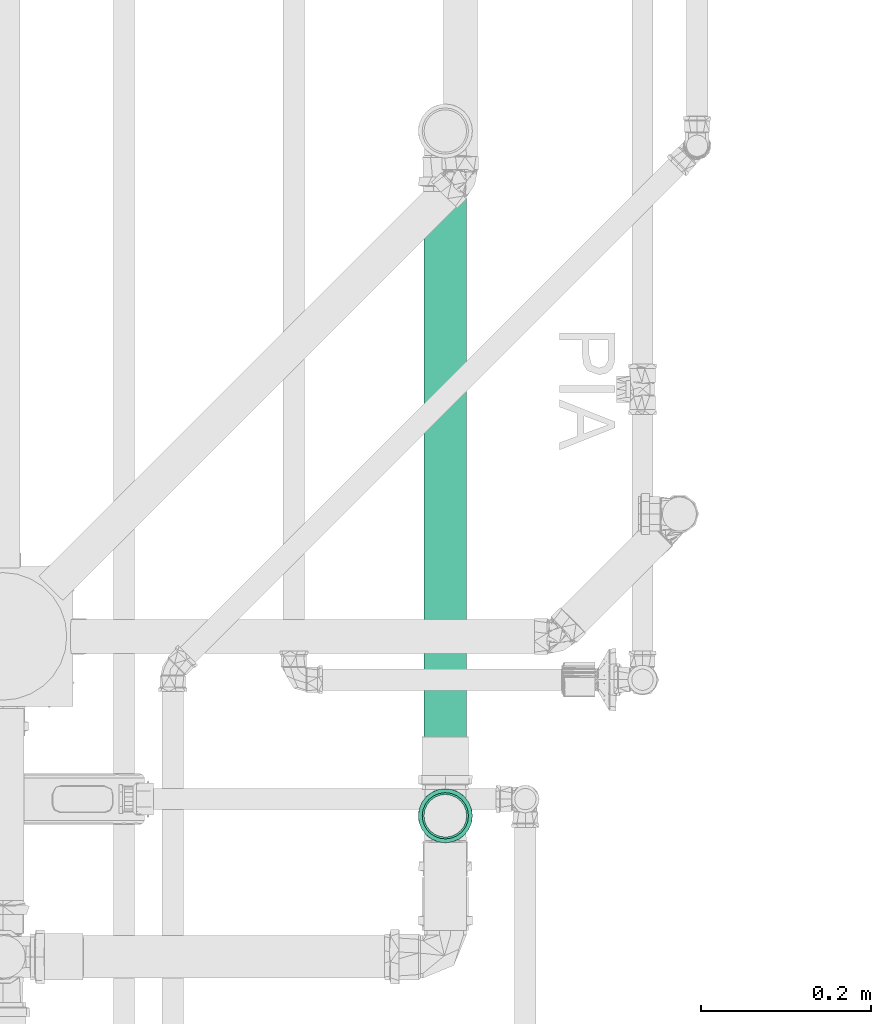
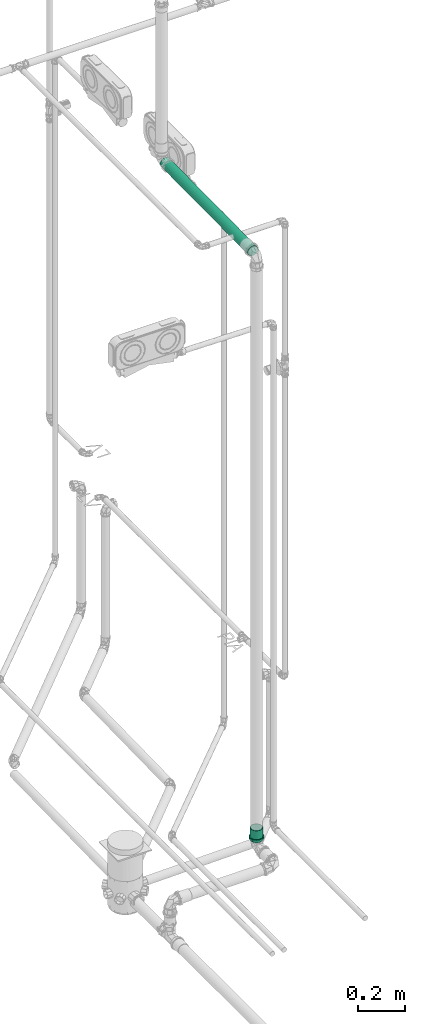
# One storey, part 51 of 589: 1 flow fitting, 1 flow segment.
"""IFC2X3 building model written with IfcOpenShell, lengths in millimetres."""

from ifc_helpers import new_model, entity, si_unit, converted_unit, derived_unit, direction, frame, frame_2d, origin, place, context, subcontext, project, spatial, circle, extrude, faceted_brep, source, transform, mapped, material, type_object, type_shapes, element, save


model = new_model("IFC2X3")

# Units and contexts
model_context = context("Model", 3, precision=0.01, world=origin(), true_north=direction((6.123031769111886e-17, 1.0)))
body_context = subcontext(model_context, "Body", "Model", "MODEL_VIEW")
ifc_project = project(units=[si_unit("LENGTHUNIT", "METRE", prefix="MILLI"), si_unit("AREAUNIT", "SQUARE_METRE"), si_unit("VOLUMEUNIT", "CUBIC_METRE"), converted_unit("PLANEANGLEUNIT", "DEGREE", entity("IfcRatioMeasure", 0.017453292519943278), si_unit("PLANEANGLEUNIT", "RADIAN"), dimensions=[0, 0, 0, 0, 0, 0, 0]), si_unit("MASSUNIT", "GRAM", prefix="KILO"), derived_unit("MASSDENSITYUNIT", [(si_unit("MASSUNIT", "GRAM", prefix="KILO"), 1), (si_unit("LENGTHUNIT", "METRE"), -3)]), derived_unit("IONCONCENTRATIONUNIT", [(si_unit("MASSUNIT", "GRAM", prefix="KILO"), 1), (si_unit("LENGTHUNIT", "METRE"), -3)]), derived_unit("MOMENTOFINERTIAUNIT", [(si_unit("LENGTHUNIT", "METRE"), 4)]), si_unit("TIMEUNIT", "SECOND"), si_unit("FREQUENCYUNIT", "HERTZ"), si_unit("THERMODYNAMICTEMPERATUREUNIT", "DEGREE_CELSIUS"), derived_unit("THERMALTRANSMITTANCEUNIT", [(si_unit("MASSUNIT", "GRAM", prefix="KILO"), 1), (si_unit("THERMODYNAMICTEMPERATUREUNIT", "KELVIN"), -1), (si_unit("TIMEUNIT", "SECOND"), -3)]), derived_unit("THERMALCONDUCTANCEUNIT", [(si_unit("MASSUNIT", "GRAM", prefix="KILO"), 1), (si_unit("THERMODYNAMICTEMPERATUREUNIT", "KELVIN"), -1), (si_unit("TIMEUNIT", "SECOND"), -3), (si_unit("LENGTHUNIT", "METRE"), 1)]), derived_unit("VOLUMETRICFLOWRATEUNIT", [(si_unit("LENGTHUNIT", "METRE"), 3), (si_unit("TIMEUNIT", "SECOND"), -1)]), derived_unit("MASSFLOWRATEUNIT", [(si_unit("MASSUNIT", "GRAM", prefix="KILO"), 1), (si_unit("TIMEUNIT", "SECOND"), -1)]), derived_unit("ROTATIONALFREQUENCYUNIT", [(si_unit("TIMEUNIT", "SECOND"), -1)]), si_unit("ELECTRICCURRENTUNIT", "AMPERE"), si_unit("ELECTRICVOLTAGEUNIT", "VOLT"), si_unit("POWERUNIT", "WATT"), si_unit("FORCEUNIT", "NEWTON", prefix="KILO"), si_unit("ILLUMINANCEUNIT", "LUX"), si_unit("LUMINOUSFLUXUNIT", "LUMEN"), si_unit("LUMINOUSINTENSITYUNIT", "CANDELA"), derived_unit("USERDEFINED", [(si_unit("MASSUNIT", "GRAM", prefix="KILO"), -1), (si_unit("LENGTHUNIT", "METRE"), -2), (si_unit("TIMEUNIT", "SECOND"), 3), (si_unit("LUMINOUSFLUXUNIT", "LUMEN"), 1)]), derived_unit("USERDEFINED", [(si_unit("MASSUNIT", "GRAM", prefix="KILO"), 1), (si_unit("TIMEUNIT", "SECOND"), -3), (si_unit("LENGTHUNIT", "METRE"), 3), (si_unit("ELECTRICCURRENTUNIT", "AMPERE"), -2)]), derived_unit("SOUNDPOWERUNIT", [(si_unit("MASSUNIT", "GRAM", prefix="KILO"), 1), (si_unit("TIMEUNIT", "SECOND"), -3), (si_unit("LENGTHUNIT", "METRE"), 2)]), derived_unit("SOUNDPRESSUREUNIT", [(si_unit("MASSUNIT", "GRAM", prefix="KILO"), 1), (si_unit("LENGTHUNIT", "METRE"), -1), (si_unit("TIMEUNIT", "SECOND"), -2)]), derived_unit("LINEARVELOCITYUNIT", [(si_unit("LENGTHUNIT", "METRE"), 1), (si_unit("TIMEUNIT", "SECOND"), -1)]), si_unit("PRESSUREUNIT", "PASCAL"), derived_unit("USERDEFINED", [(si_unit("MASSUNIT", "GRAM", prefix="KILO"), 1), (si_unit("LENGTHUNIT", "METRE"), -2), (si_unit("TIMEUNIT", "SECOND"), -2)]), derived_unit("LINEARFORCEUNIT", [(si_unit("MASSUNIT", "GRAM", prefix="KILO"), 1), (si_unit("TIMEUNIT", "SECOND"), -2)]), derived_unit("PLANARFORCEUNIT", [(si_unit("MASSUNIT", "GRAM", prefix="KILO"), 1), (si_unit("LENGTHUNIT", "METRE"), -1), (si_unit("TIMEUNIT", "SECOND"), -2)]), derived_unit("SPECIFICHEATCAPACITYUNIT", [(si_unit("THERMODYNAMICTEMPERATUREUNIT", "KELVIN"), -1), (si_unit("LENGTHUNIT", "METRE"), 2), (si_unit("TIMEUNIT", "SECOND"), -2)]), derived_unit("HEATINGVALUEUNIT", [(si_unit("LENGTHUNIT", "METRE"), 2), (si_unit("TIMEUNIT", "SECOND"), -2)]), derived_unit("VAPORPERMEABILITYUNIT", [(si_unit("LENGTHUNIT", "METRE"), -1), (si_unit("TIMEUNIT", "SECOND"), 1)]), derived_unit("DYNAMICVISCOSITYUNIT", [(si_unit("MASSUNIT", "GRAM", prefix="KILO"), 1), (si_unit("TIMEUNIT", "SECOND"), -1), (si_unit("LENGTHUNIT", "METRE"), -1)]), derived_unit("THERMALEXPANSIONCOEFFICIENTUNIT", [(si_unit("THERMODYNAMICTEMPERATUREUNIT", "KELVIN"), -1)]), derived_unit("MODULUSOFELASTICITYUNIT", [(si_unit("MASSUNIT", "GRAM", prefix="KILO"), 1), (si_unit("LENGTHUNIT", "METRE"), -1), (si_unit("TIMEUNIT", "SECOND"), -2)]), derived_unit("ISOTHERMALMOISTURECAPACITYUNIT", [(si_unit("LENGTHUNIT", "METRE"), 3), (si_unit("MASSUNIT", "GRAM", prefix="KILO"), -1)]), derived_unit("MOISTUREDIFFUSIVITYUNIT", [(si_unit("TIMEUNIT", "SECOND"), -1), (si_unit("LENGTHUNIT", "METRE"), 2)])], contexts=[model_context])

# Site, building, storey
site_placement = place(None, origin())
site = spatial("IfcSite", under=ifc_project, at=site_placement, Name="Default", CompositionType="ELEMENT")
building_placement = place(site_placement, origin())
building = spatial("IfcBuilding", under=site, at=building_placement, CompositionType="ELEMENT")
storey_placement = place(building_placement, frame((0.0, 0.0, 100.0)))
storey = spatial("IfcBuildingStorey", under=building, at=storey_placement, Name="TÉRREO", CompositionType="ELEMENT", Elevation=100.0)

# Flow segment
pipe_segment_type = type_object("IfcPipeSegmentType", Name="Tipos de tubos:PVC Esgoto Série Normal", PredefinedType="NOTDEFINED")
flow_segment_placement = place(storey_placement, origin())
element("IfcFlowSegment", 1, at=flow_segment_placement, inside=storey, type_object=pipe_segment_type, Name="Tipos de tubos:PVC Esgoto Série Normal", ObjectType="Tipos de tubos:PVC Esgoto Série Normal", context=body_context, shape_type="SweptSolid", body=[
    extrude(circle(Radius=25.0, at=frame_2d((6.767919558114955e-14, 0.0), x_axis=(1.0, 0.0))), frame((109.67377091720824, -7876.576600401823, 2968.3093975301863), z_axis=(0.0, 0.9999500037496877, 0.009999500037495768), x_axis=(1.0, 0.0, 0.0)), (0.0, 0.0, 1.0), 743.1220254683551),
])

# Flow fitting
ifc_material = material(Name="PVC Série Normal")
pipe_fitting_type = type_object("IfcPipeFittingType", Name="PVC Esgoto_Luva Simples para Conexão_Rodrigo MEP:Standard", PredefinedType="NOTDEFINED", material=ifc_material)
shared_shape = source(origin(), body_context, "Body", "Brep", [
    faceted_brep([(16.599999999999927, 15.900000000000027, -27.53960784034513), (16.599999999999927, 22.485995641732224, -22.485995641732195), (16.599999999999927, 13.599999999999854, -23.555890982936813), (16.599999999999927, 7.039878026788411, -26.273182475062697), (16.599999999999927, 8.2304456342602, -30.71644127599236), (16.599999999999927, 19.233304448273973, -19.233304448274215), (16.599999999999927, 27.539607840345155, -15.899999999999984), (16.599999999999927, 23.55589098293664, -13.600000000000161), (16.599999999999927, 26.273182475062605, -7.03987802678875), (16.599999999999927, 30.716441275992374, -8.230445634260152), (16.599999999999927, 27.2, 0.0), (16.599999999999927, 31.8, 0.0), (16.599999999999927, 26.273182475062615, 7.0398780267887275), (16.599999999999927, 30.71644127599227, 8.23044563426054), (16.599999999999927, 23.555890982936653, 13.60000000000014), (16.599999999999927, 27.539607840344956, 15.900000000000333), (16.599999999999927, 19.233304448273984, 19.2333044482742), (16.599999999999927, 22.485995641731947, 22.48599564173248), (16.599999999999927, 13.599999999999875, 23.555890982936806), (16.599999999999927, 15.899999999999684, 27.53960784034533), (16.599999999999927, 7.039878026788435, 26.27318247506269), (16.599999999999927, 8.230445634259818, 30.716441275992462), (16.599999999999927, 0.0, 27.2), (16.599999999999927, 0.0, 31.8), (16.599999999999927, -7.039878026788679, 26.273182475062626), (16.599999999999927, -8.230445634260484, 30.716441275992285), (16.599999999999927, -13.600000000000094, 23.555890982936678), (16.599999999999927, -15.900000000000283, 27.53960784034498), (16.599999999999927, -19.23330444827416, 19.233304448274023), (16.599999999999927, -22.485995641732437, 22.48599564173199), (16.599999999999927, -23.55589098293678, 13.59999999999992), (16.599999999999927, -27.539607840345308, 15.899999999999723), (16.599999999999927, -30.71644127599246, 8.230445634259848), (16.599999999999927, -26.273182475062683, 7.039878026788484), (16.599999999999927, -31.8, 0.0), (16.599999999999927, -27.2, 0.0), (16.599999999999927, -30.71644127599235, -8.23044563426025), (16.599999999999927, -26.273182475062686, -7.03987802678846), (16.599999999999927, -27.53960784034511, -15.90000000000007), (16.599999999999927, -23.55589098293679, -13.599999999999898), (16.599999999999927, -22.485995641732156, -22.485995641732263), (16.599999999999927, -19.233304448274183, -19.233304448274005), (16.599999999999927, -15.899999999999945, -27.53960784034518), (16.599999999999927, -13.600000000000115, -23.555890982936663), (16.599999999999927, -8.230445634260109, -30.716441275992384), (16.599999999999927, -7.039878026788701, -26.273182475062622), (16.599999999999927, 0.0, -31.8), (16.599999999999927, 0.0, -27.2), (6.500000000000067, -10.708108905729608, 29.429219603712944), (6.500000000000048, -24.359073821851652, 20.44200387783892), (6.500000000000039, -27.120498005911, 15.6595386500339), (6.50000000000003, -29.881922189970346, 10.877073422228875), (6.500000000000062, -15.89769721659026, 27.540937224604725), (6.500000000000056, -20.128385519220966, 23.991470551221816), (6.50000000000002, -30.840961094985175, 5.438536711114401), (6.5000000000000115, -31.8, 0.0), (6.50000000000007, -5.518520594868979, 31.317501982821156), (6.500000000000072, 5.526376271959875, 31.316116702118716), (6.50000000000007, 0.00392783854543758, 31.316809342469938), (6.500000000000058, 20.134403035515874, 23.986420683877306), (6.500000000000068, 10.715490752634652, 29.42653259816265), (6.500000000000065, 15.904605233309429, 27.536948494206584), (6.500000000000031, 29.8846497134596, 10.869577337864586), (6.500000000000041, 27.12442527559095, 15.652735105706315), (6.5000000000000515, 24.364200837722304, 20.435892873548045), (6.5000000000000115, 31.8, 0.0), (6.499999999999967, 24.364200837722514, -20.435892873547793), (6.499999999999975, 27.12442527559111, -15.652735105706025), (6.499999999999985, 29.884649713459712, -10.869577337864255), (6.4999999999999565, 15.904605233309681, -27.53694849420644), (6.499999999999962, 20.134403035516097, -23.986420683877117), (6.499999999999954, 10.715490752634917, -29.42653259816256), (6.499999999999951, 5.526376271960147, -31.31611670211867), (6.499999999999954, -5.518520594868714, -31.317501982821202), (6.499999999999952, 0.003927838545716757, -31.316809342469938), (6.499999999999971, -20.128385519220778, -23.99147055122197), (6.499999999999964, -15.897697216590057, -27.54093722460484), (6.499999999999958, -10.70810890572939, -29.42921960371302), (6.499999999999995, -29.881922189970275, -10.877073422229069), (6.499999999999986, -27.12049800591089, -15.659538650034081), (6.499999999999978, -24.359073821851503, -20.442003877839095), (6.500000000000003, -30.840961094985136, -5.438536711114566), (6.499999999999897, -30.696173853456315, -6.259599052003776), (62.0, 13.600000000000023, -23.55589098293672), (62.0, 19.233304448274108, -19.23330444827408), (62.0, 12.499999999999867, -21.650635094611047), (62.0, 6.470476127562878, -24.14814565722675), (62.0, 7.039878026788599, -26.273182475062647), (62.0, 17.677669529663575, -17.677669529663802), (62.0, 23.55589098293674, -13.599999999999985), (62.0, 21.65063509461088, -12.50000000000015), (62.0, 24.148145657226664, -6.470476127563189), (62.0, 26.27318247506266, -7.039878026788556), (62.0, 25.0, 0.0), (62.0, 27.2, 0.0), (62.0, 24.148145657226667, 6.4704761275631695), (62.0, 26.273182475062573, 7.03987802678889), (62.0, 21.650635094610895, 12.500000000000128), (62.0, 23.555890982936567, 13.600000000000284), (62.0, 17.67766952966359, 17.67766952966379), (62.0, 19.233304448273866, 19.233304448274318), (62.0, 12.499999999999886, 21.650635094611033), (62.0, 13.59999999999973, 23.55589098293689), (62.0, 6.4704761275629, 24.14814565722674), (62.0, 7.039878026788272, 26.273182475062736), (62.0, 0.0, 25.0), (62.0, 0.0, 27.2), (62.0, -6.470476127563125, 24.148145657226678), (62.0, -7.039878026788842, 26.273182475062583), (62.0, -12.500000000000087, 21.650635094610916), (62.0, -13.600000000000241, 23.555890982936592), (62.0, -17.677669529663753, 17.677669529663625), (62.0, -19.233304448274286, 19.2333044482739), (62.0, -21.65063509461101, 12.499999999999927), (62.0, -23.555890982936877, 13.599999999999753), (62.0, -26.27318247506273, 7.039878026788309), (62.0, -24.14814565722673, 6.470476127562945), (62.0, -27.2, 0.0), (62.0, -25.0, 0.0), (62.0, -26.27318247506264, -7.0398780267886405), (62.0, -24.148145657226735, -6.470476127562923), (62.0, -23.5558909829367, -13.600000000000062), (62.0, -21.650635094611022, -12.499999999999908), (62.0, -19.233304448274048, -19.233304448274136), (62.0, -17.67766952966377, -17.677669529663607), (62.0, -13.599999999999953, -23.555890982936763), (62.0, -12.500000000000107, -21.650635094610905), (62.0, -7.039878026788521, -26.27318247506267), (62.0, -6.470476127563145, -24.148145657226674), (62.0, 0.0, -27.2), (62.0, 0.0, -25.0), (0.0, 12.499999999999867, -21.650635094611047), (0.0, 19.233304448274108, -19.23330444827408), (0.0, 13.600000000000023, -23.55589098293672), (0.0, 6.470476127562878, -24.14814565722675), (0.0, 17.677669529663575, -17.677669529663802), (0.0, 23.55589098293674, -13.599999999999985), (0.0, 21.65063509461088, -12.50000000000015), (0.0, 24.148145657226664, -6.470476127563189), (0.0, 26.27318247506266, -7.039878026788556), (0.0, 25.0, 0.0), (0.0, 27.2, 0.0), (0.0, 24.148145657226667, 6.4704761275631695), (0.0, 26.273182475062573, 7.03987802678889), (0.0, 21.650635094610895, 12.500000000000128), (0.0, 23.555890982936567, 13.600000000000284), (0.0, 17.67766952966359, 17.67766952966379), (0.0, 19.233304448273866, 19.233304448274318), (0.0, 12.499999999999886, 21.650635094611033), (0.0, 13.59999999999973, 23.55589098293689), (0.0, 6.4704761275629, 24.14814565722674), (0.0, 7.039878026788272, 26.273182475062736), (0.0, 0.0, 25.0), (0.0, 0.0, 27.2), (0.0, -6.470476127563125, 24.148145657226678), (0.0, -7.039878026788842, 26.273182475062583), (0.0, -12.500000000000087, 21.650635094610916), (0.0, -13.600000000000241, 23.555890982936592), (0.0, -17.677669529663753, 17.677669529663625), (0.0, -19.233304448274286, 19.2333044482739), (0.0, -21.65063509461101, 12.499999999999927), (0.0, -23.555890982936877, 13.599999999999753), (0.0, -26.27318247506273, 7.039878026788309), (0.0, -24.14814565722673, 6.470476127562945), (0.0, -27.2, 0.0), (0.0, -25.0, 0.0), (0.0, -26.27318247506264, -7.0398780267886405), (0.0, -24.148145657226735, -6.470476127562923), (0.0, -23.5558909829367, -13.600000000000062), (0.0, -21.650635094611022, -12.499999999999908), (0.0, -19.233304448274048, -19.233304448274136), (0.0, -17.67766952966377, -17.677669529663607), (0.0, -13.599999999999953, -23.555890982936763), (0.0, -12.500000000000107, -21.650635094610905), (0.0, -7.039878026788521, -26.27318247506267), (0.0, -6.470476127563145, -24.148145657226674), (0.0, 0.0, -27.2), (0.0, 0.0, -25.0), (0.0, 7.039878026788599, -26.273182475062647), (5.300000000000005, -26.37968999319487, 4.651830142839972), (5.299999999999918, -26.25584678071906, 5.354122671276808), (5.300000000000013, -25.559379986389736, 9.303660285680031), (5.300000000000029, -20.835434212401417, 17.48498444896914), (5.300000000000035, -17.216732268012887, 20.521006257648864), (5.300000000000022, -23.19740709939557, 13.394322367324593), (5.3000000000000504, -4.720244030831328, 26.787297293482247), (5.300000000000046, -9.15913717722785, 25.172162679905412), (5.299999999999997, -27.2, 0.0), (5.300000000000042, -13.598030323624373, 23.557028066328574), (5.300000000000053, 9.165451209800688, 25.169864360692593), (5.300000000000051, 13.603939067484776, 23.55361632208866), (5.300000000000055, 4.7269633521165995, 26.786112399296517), (5.300000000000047, 17.221879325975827, 20.516686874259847), (5.300000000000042, 20.839819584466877, 17.479757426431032), (5.3000000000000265, 25.56171296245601, 9.297248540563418), (5.299999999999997, 27.2, 0.0), (5.3000000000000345, 23.20076627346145, 13.388502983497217), (5.300000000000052, 0.003359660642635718, 26.786704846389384), (5.299999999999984, 25.56171296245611, -9.29724854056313), (5.299999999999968, 20.839819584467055, -17.47975742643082), (5.2999999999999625, 17.22187932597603, -20.516686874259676), (5.299999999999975, 23.200766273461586, -13.388502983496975), (5.299999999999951, 4.726963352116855, -26.78611239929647), (5.2999999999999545, 9.165451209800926, -25.169864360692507), (5.299999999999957, 13.603939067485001, -23.553616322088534), (5.29999999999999, -26.379689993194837, -4.651830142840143), (5.299999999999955, -9.159137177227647, -25.17216267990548), (5.299999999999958, -13.5980303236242, -23.55702806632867), (5.299999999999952, -4.720244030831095, -26.787297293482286), (5.299999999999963, -17.216732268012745, -20.52100625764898), (5.299999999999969, -20.83543421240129, -17.484984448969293), (5.299999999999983, -25.559379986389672, -9.303660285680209), (5.299999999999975, -23.197407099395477, -13.394322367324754), (5.299999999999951, 0.003359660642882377, -26.78670484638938), (39.0, -25.0, 0.0), (39.0, 25.0, 0.0)], [[[0, 1, 2]], [[0, 2, 3]], [[3, 4, 0]], [[2, 1, 5]], [[6, 5, 1]], [[7, 5, 6]], [[8, 7, 6]], [[8, 6, 9]], [[8, 9, 10]], [[10, 9, 11]], [[12, 10, 11]], [[12, 11, 13]], [[14, 12, 13]], [[14, 13, 15]], [[16, 14, 15]], [[15, 17, 16]], [[17, 18, 16]], [[17, 19, 18]], [[18, 19, 20]], [[21, 20, 19]], [[20, 21, 22]], [[22, 21, 23]], [[22, 23, 24]], [[24, 23, 25]], [[24, 25, 26]], [[27, 26, 25]], [[27, 28, 26]], [[28, 27, 29]], [[30, 28, 29]], [[31, 30, 29]], [[32, 30, 31]], [[33, 30, 32]], [[33, 32, 34]], [[35, 33, 34]], [[36, 35, 34]], [[36, 37, 35]], [[37, 36, 38]], [[39, 37, 38]], [[39, 38, 40]], [[39, 40, 41]], [[40, 42, 41]], [[41, 42, 43]], [[43, 42, 44]], [[44, 45, 43]], [[46, 45, 44]], [[4, 47, 46]], [[46, 47, 45]], [[4, 3, 47]], [[48, 27, 25]], [[31, 29, 49]], [[31, 49, 50, 51]], [[52, 53, 27]], [[32, 51, 54]], [[54, 55, 34]], [[54, 34, 32]], [[25, 56, 48]], [[49, 29, 53]], [[23, 57, 58, 56]], [[59, 19, 17]], [[27, 53, 29]], [[48, 52, 27]], [[31, 51, 32]], [[57, 23, 21]], [[60, 19, 61]], [[15, 62, 63, 64]], [[19, 60, 21]], [[15, 13, 62]], [[17, 64, 59]], [[57, 21, 60]], [[23, 56, 25]], [[15, 64, 17]], [[13, 65, 62]], [[13, 11, 65]], [[59, 61, 19]], [[65, 11, 9]], [[6, 1, 66]], [[6, 66, 67, 68]], [[69, 70, 0]], [[68, 65, 9]], [[71, 69, 0]], [[71, 0, 4]], [[4, 72, 71]], [[66, 1, 70]], [[46, 73, 74, 72]], [[75, 76, 42]], [[0, 70, 1]], [[75, 42, 40]], [[6, 68, 9]], [[73, 46, 44]], [[77, 42, 76]], [[38, 78, 79, 80]], [[42, 77, 44]], [[38, 36, 78]], [[40, 80, 75]], [[73, 44, 77]], [[46, 72, 4]], [[38, 80, 40]], [[36, 81, 82, 78]], [[55, 81, 34]], [[34, 81, 36]], [[83, 84, 85]], [[83, 85, 86]], [[86, 87, 83]], [[85, 84, 88]], [[89, 88, 84]], [[88, 89, 90]], [[90, 89, 91]], [[92, 91, 89]], [[92, 93, 91]], [[93, 92, 94]], [[95, 93, 94]], [[94, 96, 95]], [[95, 96, 97]], [[98, 97, 96]], [[97, 98, 99]], [[99, 98, 100]], [[101, 99, 100]], [[100, 102, 101]], [[101, 102, 103]], [[104, 103, 102]], [[103, 104, 105]], [[105, 104, 106]], [[105, 106, 107]], [[107, 106, 108]], [[107, 108, 109]], [[110, 109, 108]], [[110, 111, 109]], [[111, 110, 112]], [[112, 113, 111]], [[114, 113, 112]], [[113, 114, 115]], [[115, 116, 113]], [[117, 116, 115]], [[117, 118, 116]], [[119, 118, 117]], [[119, 120, 118]], [[120, 119, 121]], [[121, 122, 120]], [[122, 121, 123]], [[122, 123, 124]], [[123, 125, 124]], [[124, 125, 126]], [[126, 125, 127]], [[127, 128, 126]], [[129, 128, 127]], [[87, 130, 129]], [[129, 130, 128]], [[87, 86, 130]], [[131, 132, 133]], [[134, 131, 133]], [[135, 132, 131]], [[132, 135, 136]], [[137, 136, 135]], [[138, 136, 137]], [[136, 138, 139]], [[138, 140, 139]], [[141, 139, 140]], [[141, 140, 142]], [[142, 143, 141]], [[144, 143, 142]], [[143, 144, 145]], [[146, 145, 144]], [[147, 145, 146]], [[147, 146, 148]], [[148, 149, 147]], [[150, 149, 148]], [[149, 150, 151]], [[152, 151, 150]], [[153, 151, 152]], [[154, 153, 152]], [[155, 153, 154]], [[156, 155, 154]], [[155, 156, 157]], [[156, 158, 157]], [[159, 157, 158]], [[158, 160, 159]], [[159, 160, 161]], [[162, 161, 160]], [[160, 163, 162]], [[162, 163, 164]], [[163, 165, 164]], [[164, 165, 166]], [[165, 167, 166]], [[168, 166, 167]], [[167, 169, 168]], [[170, 168, 169]], [[171, 170, 169]], [[171, 172, 170]], [[173, 172, 171]], [[174, 172, 173]], [[173, 175, 174]], [[174, 175, 176]], [[175, 177, 176]], [[177, 134, 178]], [[176, 177, 178]], [[133, 178, 134]], [[162, 179, 180, 181]], [[159, 182, 183]], [[182, 161, 181, 184]], [[185, 155, 186]], [[161, 162, 181]], [[187, 179, 164]], [[183, 188, 157]], [[183, 157, 159]], [[161, 182, 159]], [[189, 190, 149]], [[189, 149, 151]], [[157, 188, 186]], [[157, 186, 155]], [[153, 155, 185]], [[164, 179, 162]], [[151, 191, 189]], [[147, 192, 193]], [[143, 194, 195]], [[194, 145, 193, 196]], [[143, 195, 141]], [[10, 12, 96, 94]], [[149, 192, 147]], [[153, 185, 197, 191]], [[153, 191, 151]], [[145, 147, 193]], [[190, 192, 149]], [[145, 194, 143]], [[139, 195, 198]], [[132, 199, 200]], [[199, 136, 198, 201]], [[202, 178, 203]], [[136, 139, 198]], [[139, 141, 195]], [[92, 8, 10, 94]], [[133, 203, 178]], [[200, 204, 133]], [[136, 199, 132]], [[205, 164, 166]], [[206, 207, 172]], [[133, 204, 203]], [[206, 172, 174]], [[176, 178, 202]], [[200, 133, 132]], [[174, 208, 206]], [[170, 209, 210]], [[166, 211, 205]], [[211, 168, 210, 212]], [[168, 211, 166]], [[172, 209, 170]], [[176, 202, 213, 208]], [[176, 208, 174]], [[168, 170, 210]], [[207, 209, 172]], [[205, 187, 164]], [[116, 118, 214, 165, 163]], [[156, 109, 111, 158]], [[111, 113, 160, 158]], [[113, 116, 163, 160]], [[107, 109, 156, 154]], [[154, 152, 105, 107]], [[103, 105, 152, 150]], [[103, 150, 148, 101]], [[142, 95, 97, 144]], [[97, 99, 146, 144]], [[99, 101, 148, 146]], [[93, 95, 142, 140, 215]], [[215, 140, 138, 91, 93]], [[135, 131, 85, 88]], [[90, 91, 138, 137]], [[90, 137, 135, 88]], [[86, 85, 131, 134]], [[134, 177, 130, 86]], [[128, 130, 177, 175]], [[128, 175, 173, 126]], [[167, 120, 122, 169]], [[122, 124, 171, 169]], [[124, 126, 173, 171]], [[118, 120, 167, 165, 214]], [[211, 78, 82, 81, 55, 187, 205]], [[79, 78, 211, 212, 210, 80]], [[75, 80, 210, 209, 207, 76]], [[207, 206, 208, 73, 77, 76]], [[213, 202, 72, 74, 73, 208]], [[203, 204, 69, 71, 72, 202]], [[198, 195, 65, 68]], [[199, 201, 198, 68, 67, 66]], [[204, 200, 199, 66, 70, 69]], [[195, 194, 62, 65]], [[197, 185, 56, 58, 57, 191]], [[63, 62, 194, 196, 193, 64]], [[57, 60, 61, 190, 189, 191]], [[193, 192, 190, 61, 59, 64]], [[48, 56, 185, 186, 188, 52]], [[187, 55, 54, 51, 181, 180, 179]], [[182, 184, 181, 51, 50, 49]], [[188, 183, 182, 49, 53, 52]], [[30, 33, 115, 114]], [[117, 115, 33, 35]], [[26, 28, 112, 110]], [[114, 112, 28, 30]], [[24, 26, 110, 108]], [[108, 106, 22, 24]], [[18, 20, 104, 102]], [[100, 16, 18, 102]], [[12, 14, 98, 96]], [[100, 98, 14, 16]], [[104, 20, 22, 106]], [[89, 7, 8, 92]], [[83, 87, 3, 2]], [[7, 89, 84, 5]], [[83, 2, 5, 84]], [[87, 129, 47, 3]], [[43, 45, 127, 125]], [[123, 41, 43, 125]], [[37, 39, 121, 119]], [[123, 121, 39, 41]], [[35, 37, 119, 117]], [[127, 45, 47, 129]]]),
])
type_shapes(pipe_fitting_type, [shared_shape])
flow_fitting_placement = place(storey_placement, frame((109.6737709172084, -7907.516353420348, -56.058700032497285), z_axis=(1.0, 0.0, 0.0), x_axis=(0.0, 0.0, 1.0)))
element("IfcFlowFitting", 2, at=flow_fitting_placement, inside=storey, type_object=pipe_fitting_type, material=ifc_material, Name="PVC Esgoto_Luva Simples para Conexão_Rodrigo MEP:Standard", ObjectType="PVC Esgoto_Luva Simples para Conexão_Rodrigo MEP:Standard", context=body_context, shape_type="MappedRepresentation", body=[
    mapped(shared_shape, transform((0.0, 0.0, 0.0), scale=1.0)),
])

save(model, "model.ifc")
